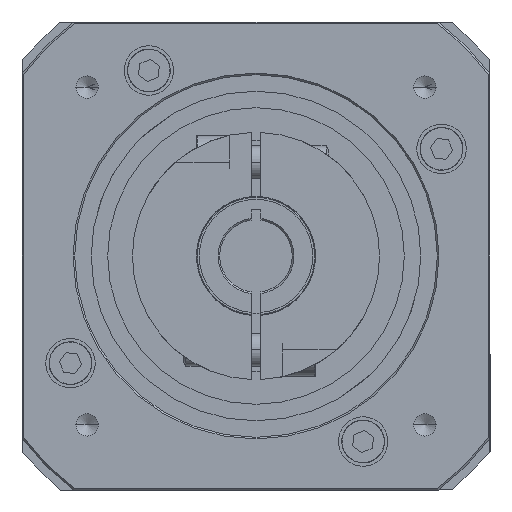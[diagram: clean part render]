
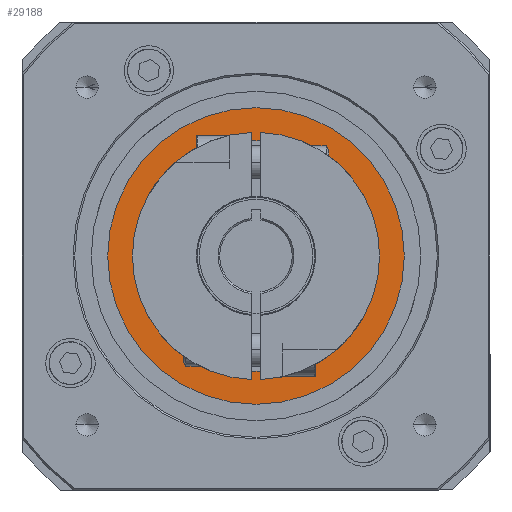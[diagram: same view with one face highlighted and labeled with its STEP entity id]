
A CAD part, front view. The second image highlights one B-rep face of the part: STEP entity #29188.
In plain terms, the highlighted planar face has unit normal (0, -1, 0).
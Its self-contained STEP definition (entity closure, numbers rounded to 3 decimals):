
#137 = AXIS2_PLACEMENT_3D ( 'NONE', #28512, #31513, #13659 ) ;
#987 = CARTESIAN_POINT ( 'NONE',  ( 0., -268.5, 0. ) ) ;
#1363 = ORIENTED_EDGE ( 'NONE', *, *, #10432, .F. ) ;
#3350 = CARTESIAN_POINT ( 'NONE',  ( 0., -268.5, 0. ) ) ;
#4000 = DIRECTION ( 'NONE',  ( -1., 0., 0. ) ) ;
#5751 = CARTESIAN_POINT ( 'NONE',  ( 0., -268.5, 0. ) ) ;
#6124 = AXIS2_PLACEMENT_3D ( 'NONE', #5751, #26600, #8764 ) ;
#6382 = DIRECTION ( 'NONE',  ( -1., 0., 0. ) ) ;
#7673 = PLANE ( 'NONE',  #137 ) ;
#8117 = EDGE_CURVE ( 'NONE', #25266, #9670, #12307, .T. ) ;
#8279 = FACE_OUTER_BOUND ( 'NONE', #23400, .T. ) ;
#8764 = DIRECTION ( 'NONE',  ( -1., 0., 0. ) ) ;
#8980 = AXIS2_PLACEMENT_3D ( 'NONE', #3350, #24247, #6382 ) ;
#9670 = VERTEX_POINT ( 'NONE', #31223 ) ;
#10432 = EDGE_CURVE ( 'NONE', #37764, #28857, #23813, .T. ) ;
#10804 = CARTESIAN_POINT ( 'NONE',  ( 0., -268.5, 0. ) ) ;
#11251 = CARTESIAN_POINT ( 'NONE',  ( 45., -268.5, 0. ) ) ;
#12307 = CIRCLE ( 'NONE', #28186, 32.5 ) ;
#12353 = EDGE_CURVE ( 'NONE', #28857, #37764, #37286, .T. ) ;
#13659 = DIRECTION ( 'NONE',  ( -1., 0., 0. ) ) ;
#13800 = DIRECTION ( 'NONE',  ( -1., 0., 0. ) ) ;
#15227 = FACE_BOUND ( 'NONE', #23368, .T. ) ;
#20264 = ORIENTED_EDGE ( 'NONE', *, *, #8117, .F. ) ;
#20784 = ORIENTED_EDGE ( 'NONE', *, *, #12353, .F. ) ;
#21851 = DIRECTION ( 'NONE',  ( 0., -1., 0. ) ) ;
#22511 = ORIENTED_EDGE ( 'NONE', *, *, #37156, .F. ) ;
#23261 = AXIS2_PLACEMENT_3D ( 'NONE', #10804, #31641, #13800 ) ;
#23368 = EDGE_LOOP ( 'NONE', ( #22511, #20264 ) ) ;
#23400 = EDGE_LOOP ( 'NONE', ( #20784, #1363 ) ) ;
#23813 = CIRCLE ( 'NONE', #8980, 45. ) ;
#24247 = DIRECTION ( 'NONE',  ( 0., 1., 0. ) ) ;
#25266 = VERTEX_POINT ( 'NONE', #31292 ) ;
#26600 = DIRECTION ( 'NONE',  ( 0., -1., 0. ) ) ;
#28186 = AXIS2_PLACEMENT_3D ( 'NONE', #987, #21851, #4000 ) ;
#28512 = CARTESIAN_POINT ( 'NONE',  ( -45., -268.5, 0. ) ) ;
#28857 = VERTEX_POINT ( 'NONE', #29683 ) ;
#29188 = ADVANCED_FACE ( 'NONE', ( #15227, #8279 ), #7673, .F. ) ;
#29683 = CARTESIAN_POINT ( 'NONE',  ( -45., -268.5, 0. ) ) ;
#31223 = CARTESIAN_POINT ( 'NONE',  ( -32.5, -268.5, 0. ) ) ;
#31292 = CARTESIAN_POINT ( 'NONE',  ( 32.5, -268.5, 0. ) ) ;
#31513 = DIRECTION ( 'NONE',  ( 0., 1., 0. ) ) ;
#31641 = DIRECTION ( 'NONE',  ( 0., 1., 0. ) ) ;
#37156 = EDGE_CURVE ( 'NONE', #9670, #25266, #37831, .T. ) ;
#37286 = CIRCLE ( 'NONE', #23261, 45. ) ;
#37764 = VERTEX_POINT ( 'NONE', #11251 ) ;
#37831 = CIRCLE ( 'NONE', #6124, 32.5 ) ;
